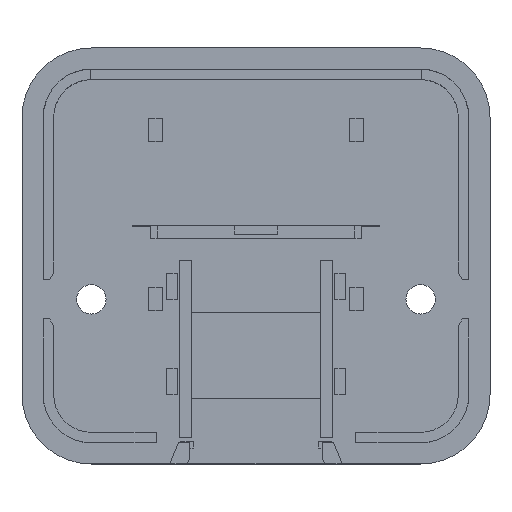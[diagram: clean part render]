
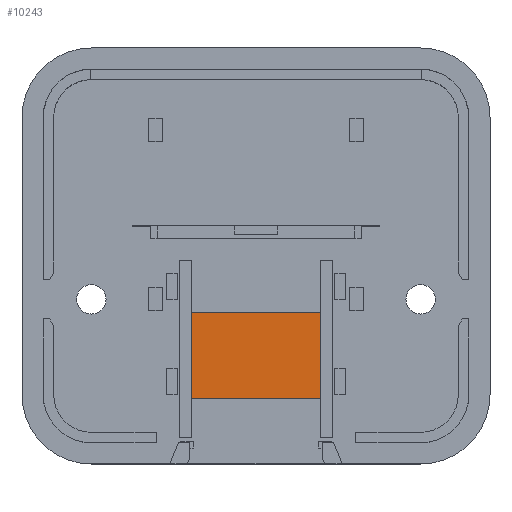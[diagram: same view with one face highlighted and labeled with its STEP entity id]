
A CAD part, top view. The second image highlights one B-rep face of the part: STEP entity #10243.
In plain terms, the highlighted planar face has unit normal (0, 0, 1).
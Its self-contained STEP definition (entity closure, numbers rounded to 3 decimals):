
#1530 = PLANE('',#1531);
#1531 = AXIS2_PLACEMENT_3D('',#1532,#1533,#1534);
#1532 = CARTESIAN_POINT('',(-7.5,-6.5,1.));
#1533 = DIRECTION('',(0.,1.,0.));
#1534 = DIRECTION('',(0.,0.,1.));
#1693 = PLANE('',#1694);
#1694 = AXIS2_PLACEMENT_3D('',#1695,#1696,#1697);
#1695 = CARTESIAN_POINT('',(-7.5,-16.5,1.));
#1696 = DIRECTION('',(0.,1.,0.));
#1697 = DIRECTION('',(0.,0.,1.));
#6087 = EDGE_CURVE('',#6088,#6090,#6092,.T.);
#6088 = VERTEX_POINT('',#6089);
#6089 = CARTESIAN_POINT('',(-7.5,-6.5,1.));
#6090 = VERTEX_POINT('',#6091);
#6091 = CARTESIAN_POINT('',(7.5,-6.5,1.));
#6092 = SURFACE_CURVE('',#6093,(#6097,#6104),.PCURVE_S1.);
#6093 = LINE('',#6094,#6095);
#6094 = CARTESIAN_POINT('',(-7.5,-6.5,1.));
#6095 = VECTOR('',#6096,1.);
#6096 = DIRECTION('',(1.,0.,0.));
#6097 = PCURVE('',#1530,#6098);
#6098 = DEFINITIONAL_REPRESENTATION('',(#6099),#6103);
#6099 = LINE('',#6100,#6101);
#6100 = CARTESIAN_POINT('',(0.,0.));
#6101 = VECTOR('',#6102,1.);
#6102 = DIRECTION('',(0.,1.));
#6103 = ( GEOMETRIC_REPRESENTATION_CONTEXT(2) 
PARAMETRIC_REPRESENTATION_CONTEXT() REPRESENTATION_CONTEXT('2D SPACE',''
  ) );
#6104 = PCURVE('',#6105,#6110);
#6105 = PLANE('',#6106);
#6106 = AXIS2_PLACEMENT_3D('',#6107,#6108,#6109);
#6107 = CARTESIAN_POINT('',(-7.5,-16.5,1.));
#6108 = DIRECTION('',(0.,0.,1.));
#6109 = DIRECTION('',(1.,0.,0.));
#6110 = DEFINITIONAL_REPRESENTATION('',(#6111),#6115);
#6111 = LINE('',#6112,#6113);
#6112 = CARTESIAN_POINT('',(0.,10.));
#6113 = VECTOR('',#6114,1.);
#6114 = DIRECTION('',(1.,0.));
#6115 = ( GEOMETRIC_REPRESENTATION_CONTEXT(2) 
PARAMETRIC_REPRESENTATION_CONTEXT() REPRESENTATION_CONTEXT('2D SPACE',''
  ) );
#6133 = PLANE('',#6134);
#6134 = AXIS2_PLACEMENT_3D('',#6135,#6136,#6137);
#6135 = CARTESIAN_POINT('',(-7.5,-16.5,1.));
#6136 = DIRECTION('',(1.,0.,0.));
#6137 = DIRECTION('',(0.,0.,1.));
#6209 = PLANE('',#6210);
#6210 = AXIS2_PLACEMENT_3D('',#6211,#6212,#6213);
#6211 = CARTESIAN_POINT('',(7.5,-16.5,1.));
#6212 = DIRECTION('',(1.,0.,0.));
#6213 = DIRECTION('',(0.,0.,1.));
#6224 = EDGE_CURVE('',#6225,#6227,#6229,.T.);
#6225 = VERTEX_POINT('',#6226);
#6226 = CARTESIAN_POINT('',(-7.5,-16.5,1.));
#6227 = VERTEX_POINT('',#6228);
#6228 = CARTESIAN_POINT('',(7.5,-16.5,1.));
#6229 = SURFACE_CURVE('',#6230,(#6234,#6241),.PCURVE_S1.);
#6230 = LINE('',#6231,#6232);
#6231 = CARTESIAN_POINT('',(-7.5,-16.5,1.));
#6232 = VECTOR('',#6233,1.);
#6233 = DIRECTION('',(1.,0.,0.));
#6234 = PCURVE('',#1693,#6235);
#6235 = DEFINITIONAL_REPRESENTATION('',(#6236),#6240);
#6236 = LINE('',#6237,#6238);
#6237 = CARTESIAN_POINT('',(0.,0.));
#6238 = VECTOR('',#6239,1.);
#6239 = DIRECTION('',(0.,1.));
#6240 = ( GEOMETRIC_REPRESENTATION_CONTEXT(2) 
PARAMETRIC_REPRESENTATION_CONTEXT() REPRESENTATION_CONTEXT('2D SPACE',''
  ) );
#6241 = PCURVE('',#6105,#6242);
#6242 = DEFINITIONAL_REPRESENTATION('',(#6243),#6247);
#6243 = LINE('',#6244,#6245);
#6244 = CARTESIAN_POINT('',(0.,0.));
#6245 = VECTOR('',#6246,1.);
#6246 = DIRECTION('',(1.,0.));
#6247 = ( GEOMETRIC_REPRESENTATION_CONTEXT(2) 
PARAMETRIC_REPRESENTATION_CONTEXT() REPRESENTATION_CONTEXT('2D SPACE',''
  ) );
#10243 = ADVANCED_FACE('',(#10244),#6105,.T.);
#10244 = FACE_BOUND('',#10245,.T.);
#10245 = EDGE_LOOP('',(#10246,#10267,#10268,#10289));
#10246 = ORIENTED_EDGE('',*,*,#10247,.F.);
#10247 = EDGE_CURVE('',#6225,#6088,#10248,.T.);
#10248 = SURFACE_CURVE('',#10249,(#10253,#10260),.PCURVE_S1.);
#10249 = LINE('',#10250,#10251);
#10250 = CARTESIAN_POINT('',(-7.5,-16.5,1.));
#10251 = VECTOR('',#10252,1.);
#10252 = DIRECTION('',(0.,1.,0.));
#10253 = PCURVE('',#6105,#10254);
#10254 = DEFINITIONAL_REPRESENTATION('',(#10255),#10259);
#10255 = LINE('',#10256,#10257);
#10256 = CARTESIAN_POINT('',(0.,0.));
#10257 = VECTOR('',#10258,1.);
#10258 = DIRECTION('',(0.,1.));
#10259 = ( GEOMETRIC_REPRESENTATION_CONTEXT(2) 
PARAMETRIC_REPRESENTATION_CONTEXT() REPRESENTATION_CONTEXT('2D SPACE',''
  ) );
#10260 = PCURVE('',#6133,#10261);
#10261 = DEFINITIONAL_REPRESENTATION('',(#10262),#10266);
#10262 = LINE('',#10263,#10264);
#10263 = CARTESIAN_POINT('',(0.,0.));
#10264 = VECTOR('',#10265,1.);
#10265 = DIRECTION('',(0.,-1.));
#10266 = ( GEOMETRIC_REPRESENTATION_CONTEXT(2) 
PARAMETRIC_REPRESENTATION_CONTEXT() REPRESENTATION_CONTEXT('2D SPACE',''
  ) );
#10267 = ORIENTED_EDGE('',*,*,#6224,.T.);
#10268 = ORIENTED_EDGE('',*,*,#10269,.T.);
#10269 = EDGE_CURVE('',#6227,#6090,#10270,.T.);
#10270 = SURFACE_CURVE('',#10271,(#10275,#10282),.PCURVE_S1.);
#10271 = LINE('',#10272,#10273);
#10272 = CARTESIAN_POINT('',(7.5,-16.5,1.));
#10273 = VECTOR('',#10274,1.);
#10274 = DIRECTION('',(0.,1.,0.));
#10275 = PCURVE('',#6105,#10276);
#10276 = DEFINITIONAL_REPRESENTATION('',(#10277),#10281);
#10277 = LINE('',#10278,#10279);
#10278 = CARTESIAN_POINT('',(15.,0.));
#10279 = VECTOR('',#10280,1.);
#10280 = DIRECTION('',(0.,1.));
#10281 = ( GEOMETRIC_REPRESENTATION_CONTEXT(2) 
PARAMETRIC_REPRESENTATION_CONTEXT() REPRESENTATION_CONTEXT('2D SPACE',''
  ) );
#10282 = PCURVE('',#6209,#10283);
#10283 = DEFINITIONAL_REPRESENTATION('',(#10284),#10288);
#10284 = LINE('',#10285,#10286);
#10285 = CARTESIAN_POINT('',(0.,0.));
#10286 = VECTOR('',#10287,1.);
#10287 = DIRECTION('',(0.,-1.));
#10288 = ( GEOMETRIC_REPRESENTATION_CONTEXT(2) 
PARAMETRIC_REPRESENTATION_CONTEXT() REPRESENTATION_CONTEXT('2D SPACE',''
  ) );
#10289 = ORIENTED_EDGE('',*,*,#6087,.F.);
